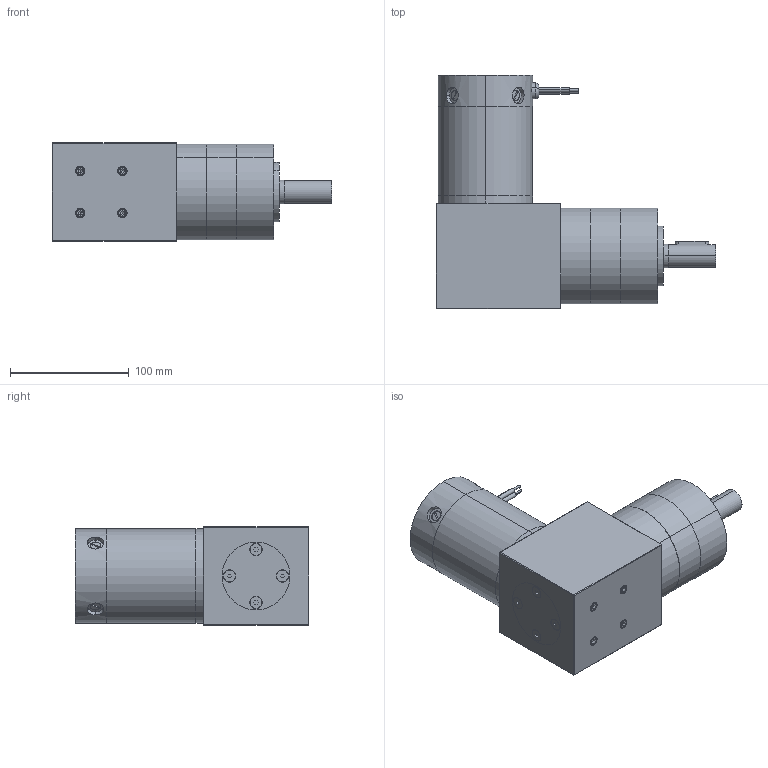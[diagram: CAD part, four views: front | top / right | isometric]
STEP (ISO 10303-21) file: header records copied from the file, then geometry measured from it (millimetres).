
FILE_DESCRIPTION (( 'STEP AP203' ), '1' );
FILE_NAME ('d33455bgra2.step', '2018-12-07T19:39:41', ( '' ), ( '' ), 'SwSTEP 2.0', 'SolidWorks 2017', '' );
FILE_SCHEMA (( 'CONFIG_CONTROL_DESIGN' ));
Length unit declared in the file: inch
Products named in the file (1): d33455bgra2
Bounding box: 235.03 x 196.51 x 82.55 mm (x, y, z)
Volume: 1735999.2 mm3; surface area: 205490.9 mm2
Topology: 27 solids, 27 shells, 1104 faces, 2791 edges, 1790 vertices
Faces by surface type: cylinder 691, plane 294, cone 93, torus 14, bspline 8, sphere 4
Entity records: 52497 total; most frequent: CARTESIAN_POINT 28556, ORIENTED_EDGE 5534, DIRECTION 4484, EDGE_CURVE 2767, VERTEX_POINT 1790, AXIS2_PLACEMENT_3D 1650, EDGE_LOOP 1209, VECTOR 1184
